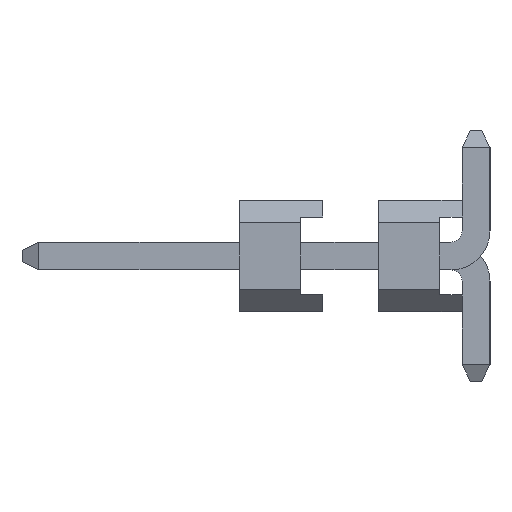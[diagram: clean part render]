
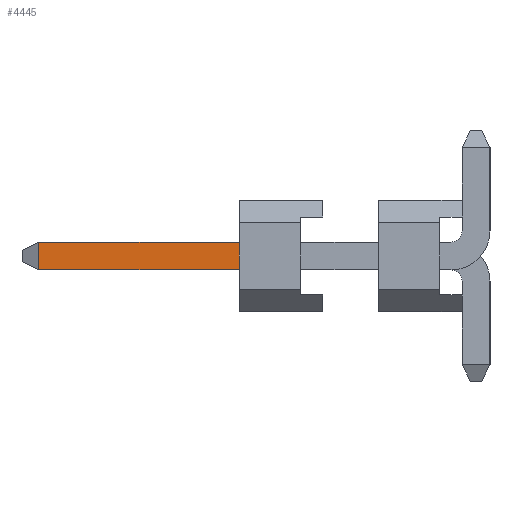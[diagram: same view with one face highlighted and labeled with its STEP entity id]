
A CAD part, left-side view. The second image highlights one B-rep face of the part: STEP entity #4445.
In plain terms, the highlighted planar face has unit normal (-1, 0, 0).
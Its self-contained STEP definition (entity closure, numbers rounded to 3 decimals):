
#3557=FACE_OUTER_BOUND('',#6455,.T.);
#4445=ADVANCED_FACE('',(#3557),#5393,.F.);
#5393=PLANE('',#21148);
#6455=EDGE_LOOP('',(#7740,#7741,#7742,#7743));
#7740=ORIENTED_EDGE('',*,*,#14052,.F.);
#7741=ORIENTED_EDGE('',*,*,#14053,.T.);
#7742=ORIENTED_EDGE('',*,*,#14054,.F.);
#7743=ORIENTED_EDGE('',*,*,#14055,.T.);
#12430=VERTEX_POINT('',#26902);
#12431=VERTEX_POINT('',#26903);
#12432=VERTEX_POINT('',#26905);
#12433=VERTEX_POINT('',#26907);
#14052=EDGE_CURVE('',#12430,#12431,#16492,.T.);
#14053=EDGE_CURVE('',#12430,#12432,#16493,.T.);
#14054=EDGE_CURVE('',#12433,#12432,#16494,.T.);
#14055=EDGE_CURVE('',#12433,#12431,#16495,.T.);
#16492=LINE('',#26901,#18872);
#16493=LINE('',#26904,#18873);
#16494=LINE('',#26906,#18874);
#16495=LINE('',#26908,#18875);
#18872=VECTOR('',#22425,1.);
#18873=VECTOR('',#22426,1.);
#18874=VECTOR('',#22427,1.);
#18875=VECTOR('',#22428,1.);
#21148=AXIS2_PLACEMENT_3D('',#26909,#22429,#22430);
#22425=DIRECTION('',(0.,-1.,0.));
#22426=DIRECTION('',(0.,0.,-1.));
#22427=DIRECTION('',(0.,1.,0.));
#22428=DIRECTION('',(0.,0.,1.));
#22429=DIRECTION('',(1.,0.,0.));
#22430=DIRECTION('',(0.,1.,0.));
#26901=CARTESIAN_POINT('',(-1.202,-1.776,1.2));
#26902=CARTESIAN_POINT('',(-1.202,7.624,1.2));
#26903=CARTESIAN_POINT('',(-1.202,4.024,1.2));
#26904=CARTESIAN_POINT('',(-1.202,7.624,1.4));
#26905=CARTESIAN_POINT('',(-1.202,7.624,0.7));
#26906=CARTESIAN_POINT('',(-1.202,5.824,0.7));
#26907=CARTESIAN_POINT('',(-1.202,4.024,0.7));
#26908=CARTESIAN_POINT('',(-1.202,4.024,2.));
#26909=CARTESIAN_POINT('',(-1.202,-1.776,1.4));
